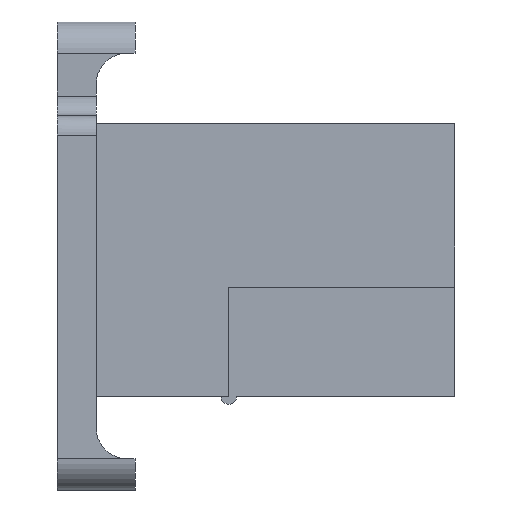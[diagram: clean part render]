
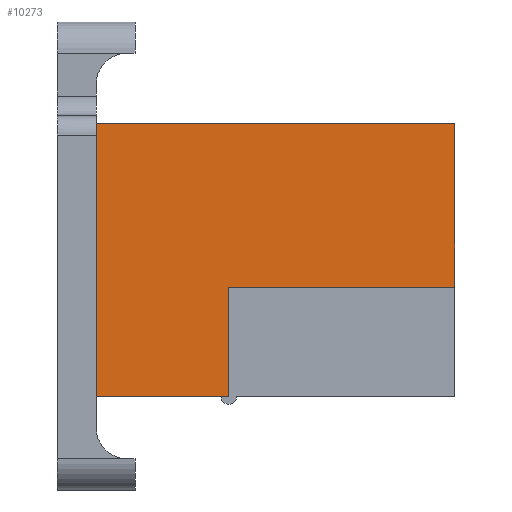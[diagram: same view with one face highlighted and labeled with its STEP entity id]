
A CAD part, left-side view. The second image highlights one B-rep face of the part: STEP entity #10273.
In plain terms, the highlighted planar face has unit normal (-1, 0, 0).
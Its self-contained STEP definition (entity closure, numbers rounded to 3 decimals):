
#1071=DIRECTION('',(0.,1.,0.));
#1072=VECTOR('',#1071,5.8);
#1073=CARTESIAN_POINT('',(3.15,0.,2.8));
#1074=LINE('',#1073,#1072);
#1079=DIRECTION('',(0.,0.,1.));
#1080=VECTOR('',#1079,4.2);
#1081=CARTESIAN_POINT('',(3.15,0.,2.8));
#1082=LINE('',#1081,#1080);
#1083=DIRECTION('',(0.,0.,1.));
#1084=VECTOR('',#1083,2.8);
#1085=CARTESIAN_POINT('',(3.15,5.8,0.));
#1086=LINE('',#1085,#1084);
#1087=DIRECTION('',(0.,-1.,0.));
#1088=VECTOR('',#1087,3.4);
#1089=CARTESIAN_POINT('',(3.15,9.2,0.));
#1090=LINE('',#1089,#1088);
#1091=DIRECTION('',(0.,0.,-1.));
#1092=VECTOR('',#1091,7.);
#1093=CARTESIAN_POINT('',(3.15,9.2,7.));
#1094=LINE('',#1093,#1092);
#1095=DIRECTION('',(0.,1.,0.));
#1096=VECTOR('',#1095,9.2);
#1097=CARTESIAN_POINT('',(3.15,0.,7.));
#1098=LINE('',#1097,#1096);
#7696=CARTESIAN_POINT('',(3.15,0.,2.8));
#7697=VERTEX_POINT('',#7696);
#7698=CARTESIAN_POINT('',(3.15,0.,7.));
#7699=VERTEX_POINT('',#7698);
#7726=CARTESIAN_POINT('',(3.15,5.8,0.));
#7727=VERTEX_POINT('',#7726);
#7728=CARTESIAN_POINT('',(3.15,5.8,2.8));
#7729=VERTEX_POINT('',#7728);
#7730=CARTESIAN_POINT('',(3.15,9.2,0.));
#7731=VERTEX_POINT('',#7730);
#7732=CARTESIAN_POINT('',(3.15,9.2,7.));
#7733=VERTEX_POINT('',#7732);
#10260=CARTESIAN_POINT('',(3.15,9.2,0.));
#10261=DIRECTION('',(-1.,0.,0.));
#10262=DIRECTION('',(0.,-1.,0.));
#10263=AXIS2_PLACEMENT_3D('',#10260,#10261,#10262);
#10264=PLANE('',#10263);
#10265=ORIENTED_EDGE('',*,*,#10166,.F.);
#10266=ORIENTED_EDGE('',*,*,#10254,.T.);
#10267=ORIENTED_EDGE('',*,*,#10242,.F.);
#10268=ORIENTED_EDGE('',*,*,#8853,.F.);
#10269=ORIENTED_EDGE('',*,*,#9543,.F.);
#10270=ORIENTED_EDGE('',*,*,#10090,.F.);
#10271=EDGE_LOOP('',(#10265,#10266,#10267,#10268,#10269,#10270));
#10272=FACE_OUTER_BOUND('',#10271,.F.);
#8853=EDGE_CURVE('',#7731,#7727,#1090,.T.);
#9543=EDGE_CURVE('',#7733,#7731,#1094,.T.);
#10090=EDGE_CURVE('',#7699,#7733,#1098,.T.);
#10166=EDGE_CURVE('',#7697,#7699,#1082,.T.);
#10242=EDGE_CURVE('',#7727,#7729,#1086,.T.);
#10254=EDGE_CURVE('',#7697,#7729,#1074,.T.);
#10273=ADVANCED_FACE('',(#10272),#10264,.T.);
